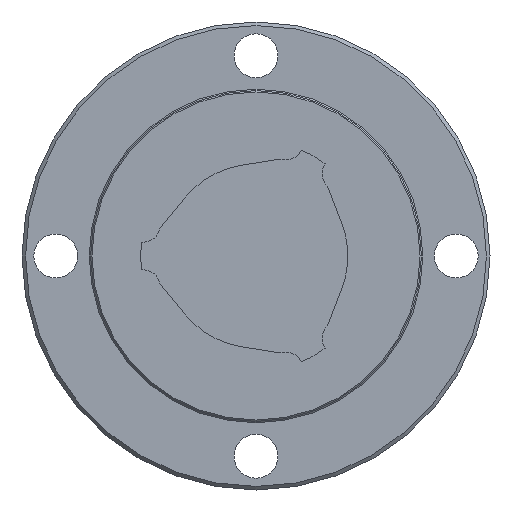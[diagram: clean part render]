
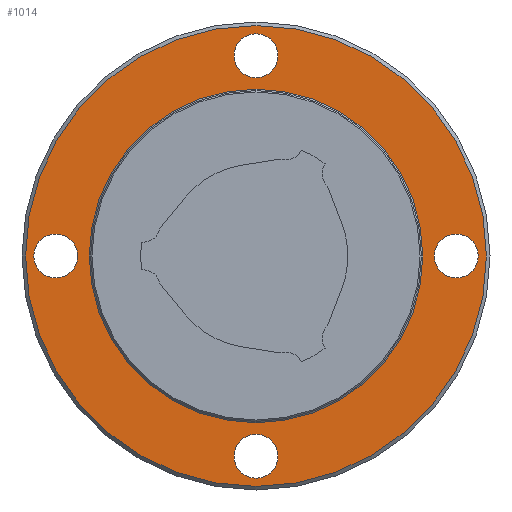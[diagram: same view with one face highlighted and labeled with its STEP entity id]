
A CAD part, left-side view. The second image highlights one B-rep face of the part: STEP entity #1014.
In plain terms, the highlighted planar face has unit normal (-1, 0, 0).
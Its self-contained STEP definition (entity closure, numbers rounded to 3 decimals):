
#49=PLANE('',#1146);
#319=ORIENTED_EDGE('',*,*,#534,.F.);
#320=ORIENTED_EDGE('',*,*,#535,.T.);
#321=ORIENTED_EDGE('',*,*,#536,.T.);
#322=ORIENTED_EDGE('',*,*,#537,.T.);
#323=ORIENTED_EDGE('',*,*,#538,.T.);
#324=ORIENTED_EDGE('',*,*,#533,.T.);
#533=EDGE_CURVE('',#651,#651,#730,.T.);
#534=EDGE_CURVE('',#652,#652,#731,.T.);
#535=EDGE_CURVE('',#653,#653,#732,.T.);
#536=EDGE_CURVE('',#654,#654,#733,.T.);
#537=EDGE_CURVE('',#655,#655,#734,.T.);
#538=EDGE_CURVE('',#656,#656,#735,.T.);
#651=VERTEX_POINT('',#1766);
#652=VERTEX_POINT('',#1769);
#653=VERTEX_POINT('',#1771);
#654=VERTEX_POINT('',#1773);
#655=VERTEX_POINT('',#1775);
#656=VERTEX_POINT('',#1777);
#730=CIRCLE('',#1145,60.8);
#731=CIRCLE('',#1147,84.);
#732=CIRCLE('',#1148,8.);
#733=CIRCLE('',#1149,8.);
#734=CIRCLE('',#1150,8.);
#735=CIRCLE('',#1151,8.);
#795=EDGE_LOOP('',(#319));
#796=EDGE_LOOP('',(#320));
#797=EDGE_LOOP('',(#321));
#798=EDGE_LOOP('',(#322));
#799=EDGE_LOOP('',(#323));
#800=EDGE_LOOP('',(#324));
#891=FACE_BOUND('',#795,.T.);
#892=FACE_BOUND('',#796,.T.);
#893=FACE_BOUND('',#797,.T.);
#894=FACE_BOUND('',#798,.T.);
#895=FACE_BOUND('',#799,.T.);
#896=FACE_BOUND('',#800,.T.);
#1014=ADVANCED_FACE('',(#891,#892,#893,#894,#895,#896),#49,.F.);
#1145=AXIS2_PLACEMENT_3D('',#1765,#1388,#1389);
#1146=AXIS2_PLACEMENT_3D('',#1767,#1390,#1391);
#1147=AXIS2_PLACEMENT_3D('',#1768,#1392,#1393);
#1148=AXIS2_PLACEMENT_3D('',#1770,#1394,#1395);
#1149=AXIS2_PLACEMENT_3D('',#1772,#1396,#1397);
#1150=AXIS2_PLACEMENT_3D('',#1774,#1398,#1399);
#1151=AXIS2_PLACEMENT_3D('',#1776,#1400,#1401);
#1388=DIRECTION('',(1.,0.,0.));
#1389=DIRECTION('',(0.,0.,-1.));
#1390=DIRECTION('',(1.,0.,0.));
#1391=DIRECTION('',(0.,0.,-1.));
#1392=DIRECTION('',(1.,0.,0.));
#1393=DIRECTION('',(0.,0.,-1.));
#1394=DIRECTION('',(1.,0.,0.));
#1395=DIRECTION('',(0.,0.,-1.));
#1396=DIRECTION('',(1.,0.,0.));
#1397=DIRECTION('',(0.,0.,-1.));
#1398=DIRECTION('',(1.,0.,0.));
#1399=DIRECTION('',(0.,0.,-1.));
#1400=DIRECTION('',(1.,0.,0.));
#1401=DIRECTION('',(0.,0.,-1.));
#1765=CARTESIAN_POINT('',(64.5,0.,0.));
#1766=CARTESIAN_POINT('',(64.5,0.,-60.8));
#1767=CARTESIAN_POINT('',(64.5,60.8,0.));
#1768=CARTESIAN_POINT('',(64.5,0.,0.));
#1769=CARTESIAN_POINT('',(64.5,0.,-84.));
#1770=CARTESIAN_POINT('',(64.5,73.,0.));
#1771=CARTESIAN_POINT('',(64.5,73.,-8.));
#1772=CARTESIAN_POINT('',(64.5,0.,-73.));
#1773=CARTESIAN_POINT('',(64.5,0.,-81.));
#1774=CARTESIAN_POINT('',(64.5,0.,73.));
#1775=CARTESIAN_POINT('',(64.5,0.,65.));
#1776=CARTESIAN_POINT('',(64.5,-73.,0.));
#1777=CARTESIAN_POINT('',(64.5,-73.,-8.));
